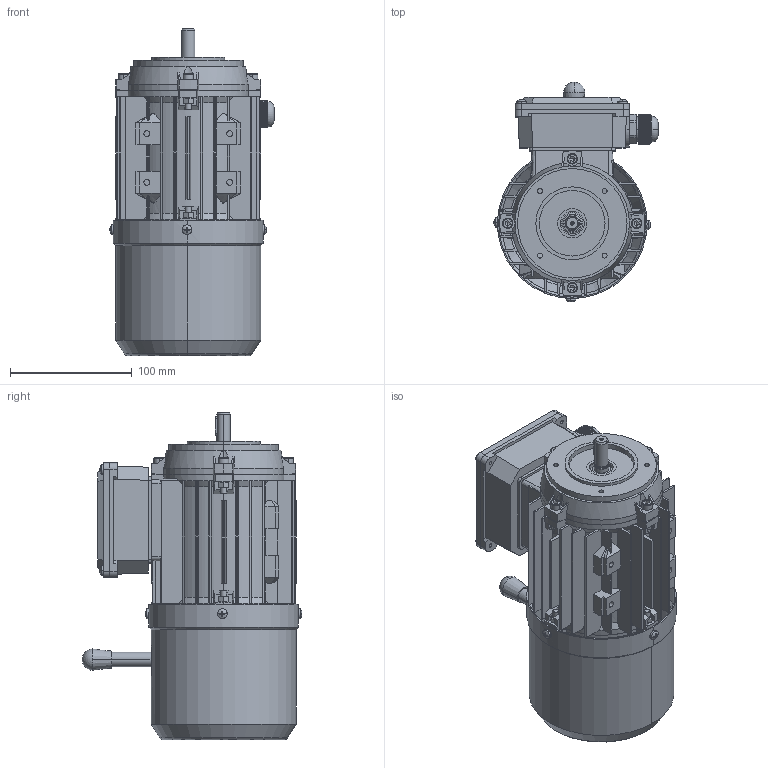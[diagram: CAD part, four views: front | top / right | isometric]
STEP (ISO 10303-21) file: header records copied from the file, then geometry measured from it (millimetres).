
FILE_DESCRIPTION (( 'STEP AP214' ), '1' );
FILE_NAME ('BCL0012.06B414.11.STEP', '2020-04-22T14:20:07', ( '' ), ( '' ), 'SwSTEP 2.0', 'SolidWorks 2019', '' );
FILE_SCHEMA (( 'AUTOMOTIVE_DESIGN' ));
Length unit declared in the file: millimetre
Products named in the file (1): BCL0012.06B414.11
Bounding box: 134.86 x 180.7 x 268.81 mm (x, y, z)
Volume: 514669.9 mm3; surface area: 409032.2 mm2
Topology: 34 solids, 34 shells, 2375 faces, 6345 edges, 4085 vertices
Faces by surface type: plane 1479, cylinder 556, cone 213, torus 49, bspline 40, sphere 38
Entity records: 106553 total; most frequent: CARTESIAN_POINT 21474, ORIENTED_EDGE 12606, DIRECTION 11629, EDGE_CURVE 6303, VERTEX_POINT 4075, AXIS2_PLACEMENT_3D 3941, LINE 3747, VECTOR 3747
